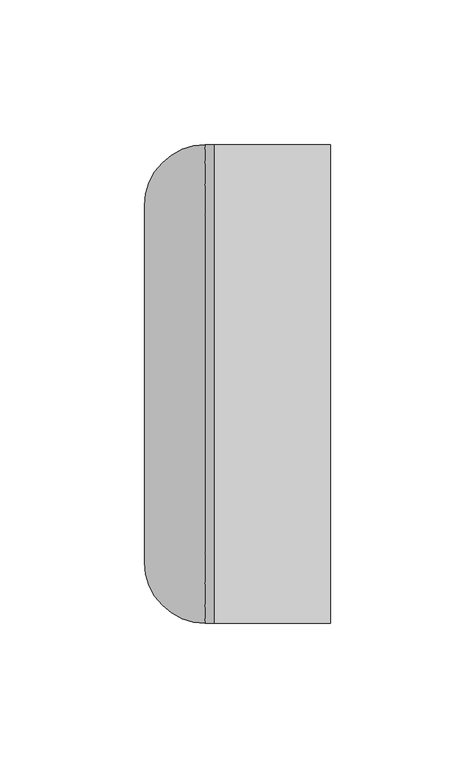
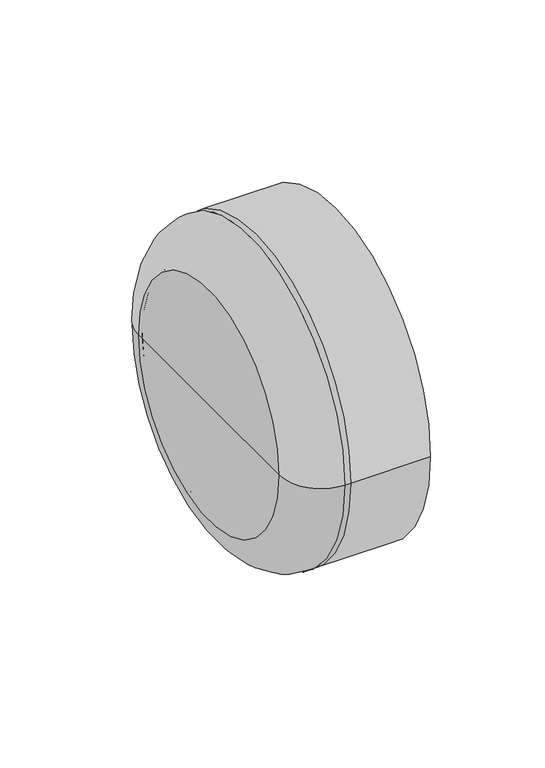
"""IFC4 building model written with IfcOpenShell, lengths in millimetres: pipe fitting geometry, 09_Заглушка : Белый цвет."""

from ifc_helpers import new_model, si_unit, point, frame, origin, place, context, project, spatial, polyline, circle_curve, ellipse_curve, trimmed, source, transform, mapped, element, save
from ifc_brep_helpers import plane_surface, cylinder_surface, revolved_surface, advanced_brep


def pipe_fitting_8b9b9ca8(model_context):
    return source(origin(), model_context, "Body", "AdvancedBrep", [
        advanced_brep(
        [(40.0, -82.6, 0.0), (40.0, 82.6, 0.0), (40.0, 62.5, 0.0), (40.0, -62.5, 0.0), (0.0, -82.6, 0.0), (0.0, 82.6, 0.0), (0.0, 62.5, 0.0), (0.0, -62.5, 0.0), (-24.2, -61.6721604, 0.0), (-24.2, 61.6721604, 0.0), (-3.2721604, 82.6, 0.0), (-3.2721604, -82.6, 0.0), (-24.2, 0.0, 0.0), (-22.2, -61.13, 0.0), (-22.2, 61.13, 0.0), (-22.2, 0.0, 0.0), (-20.83, -62.5, 0.0), (-20.83, 62.5, 0.0)],
        [
            (0, 1, circle_curve(frame((40.0, 0.0, 0.0), z_axis=(1.0, 0.0, 0.0), x_axis=(0.0, 1.0, 0.0)), 82.6)),
            (1, 0, circle_curve(frame((40.0, 0.0, 0.0), z_axis=(1.0, 0.0, 0.0), x_axis=(0.0, 1.0, 0.0)), 82.6)),
            (2, 3, circle_curve(frame((40.0, 0.0, 0.0), z_axis=(-1.0, 0.0, 0.0), x_axis=(0.0, 1.0, 0.0)), 62.5)),
            (3, 2, circle_curve(frame((40.0, 0.0, 0.0), z_axis=(-1.0, 0.0, 0.0), x_axis=(0.0, 1.0, 0.0)), 62.5)),
            (0, 4),
            (4, 5, circle_curve(frame((0.0, 0.0, 0.0), z_axis=(1.0, 0.0, 0.0), x_axis=(0.0, 1.0, 0.0)), 82.6)),
            (5, 1),
            (5, 4, circle_curve(frame((0.0, 0.0, 0.0), z_axis=(1.0, 0.0, 0.0), x_axis=(0.0, 1.0, 0.0)), 82.6)),
            (2, 6),
            (6, 7, circle_curve(frame((0.0, 0.0, 0.0), z_axis=(-1.0, 0.0, 0.0), x_axis=(0.0, 1.0, 0.0)), 62.5)),
            (7, 3),
            (7, 6, circle_curve(frame((0.0, 0.0, 0.0), z_axis=(-1.0, 0.0, 0.0), x_axis=(0.0, 1.0, 0.0)), 62.5)),
            (8, 9, circle_curve(frame((-24.2, 0.0, 0.0), z_axis=(1.0, 0.0, 0.0), x_axis=(0.0, 1.0, 0.0)), 61.6721604)),
            (9, 10, circle_curve(frame((-3.2721604, 61.6721604, 0.0), z_axis=(0.0, 0.0, -1.0), x_axis=(1.0, 0.0, 0.0)), 20.9278396)),
            (10, 11, circle_curve(frame((-3.2721604, 0.0, 0.0), z_axis=(-1.0, 0.0, 0.0), x_axis=(0.0, 1.0, 0.0)), 82.6)),
            (11, 8, circle_curve(frame((-3.2721604, -61.6721604, 0.0), z_axis=(0.0, 0.0, -1.0), x_axis=(1.0, 0.0, 0.0)), 20.9278396)),
            (9, 8, circle_curve(frame((-24.2, 0.0, 0.0), z_axis=(1.0, 0.0, 0.0), x_axis=(0.0, 1.0, 0.0)), 61.6721604)),
            (11, 10, circle_curve(frame((-3.2721604, 0.0, 0.0), z_axis=(-1.0, 0.0, 0.0), x_axis=(0.0, 1.0, 0.0)), 82.6)),
            (8, 12),
            (12, 9),
            (13, 14, circle_curve(frame((-22.2, 0.0, 0.0), z_axis=(1.0, 0.0, 0.0), x_axis=(0.0, 1.0, 0.0)), 61.13)),
            (14, 15),
            (15, 13),
            (14, 13, circle_curve(frame((-22.2, 0.0, 0.0), z_axis=(1.0, 0.0, 0.0), x_axis=(0.0, 1.0, 0.0)), 61.13)),
            (13, 16, circle_curve(frame((-20.83, -61.13, 0.0), z_axis=(0.0, 0.0, 1.0), x_axis=(1.0, 0.0, 0.0)), 1.37)),
            (16, 17, circle_curve(frame((-20.83, 0.0, 0.0), z_axis=(1.0, 0.0, 0.0), x_axis=(0.0, 1.0, 0.0)), 62.5)),
            (17, 14, circle_curve(frame((-20.83, 61.13, 0.0), z_axis=(0.0, 0.0, 1.0), x_axis=(1.0, 0.0, 0.0)), 1.37)),
            (17, 16, circle_curve(frame((-20.83, 0.0, 0.0), z_axis=(1.0, 0.0, 0.0), x_axis=(0.0, 1.0, 0.0)), 62.5)),
            (16, 7),
            (6, 17),
            (10, 5),
            (4, 11),
        ],
        [
            plane_surface(frame((40.0, 82.6, 0.0), z_axis=(1.0, 0.0, 0.0), x_axis=(0.0, 0.0, 1.0))),
            cylinder_surface(frame((0.0, 0.0, 0.0), z_axis=(1.0, 0.0, 0.0), x_axis=(0.0, 1.0, 0.0)), 82.6),
            revolved_surface(polyline([(40.0, 62.5, 0.0), (0.0, 62.5, 0.0)]), (0.0, 0.0, 0.0), (1.0, 0.0, 0.0)),
            revolved_surface(trimmed(ellipse_curve(frame((-3.2721604, 61.6721604, 0.0), z_axis=(0.0, 0.0, 1.0), x_axis=(1.0, 0.0, 0.0)), 20.9278396, 20.9278396), [point((-3.2721604, 82.6, 0.0))], [point((-24.2, 61.6721604, 0.0))], True, "CARTESIAN"), (-24.2, 0.0, 0.0), (-1.0, 0.0, 0.0)),
            plane_surface(frame((-24.2, 0.0, 0.0), z_axis=(-1.0, 0.0, 0.0), x_axis=(0.0, 1.0, 0.0))),
            plane_surface(frame((-22.2, 0.0, 0.0), z_axis=(1.0, 0.0, 0.0), x_axis=(0.0, 1.0, 0.0))),
            revolved_surface(trimmed(ellipse_curve(frame((-20.83, 61.13, 0.0), z_axis=(0.0, 0.0, -1.0), x_axis=(1.0, 0.0, 0.0)), 1.37, 1.37), [point((-22.2, 61.13, 0.0))], [point((-20.83, 62.5, 0.0))], True, "CARTESIAN"), (-24.2, 0.0, 0.0), (-1.0, 0.0, 0.0)),
            revolved_surface(polyline([(-20.83, 62.5, 0.0), (0.0, 62.5, 0.0)]), (-24.2, 0.0, 0.0), (-1.0, 0.0, 0.0)),
            cylinder_surface(frame((-24.2, 0.0, 0.0), z_axis=(-1.0, 0.0, 0.0), x_axis=(0.0, 1.0, 0.0)), 82.6),
        ],
        [
            (0, [[1, 2], [3, 4]]),
            (1, [[-1, 5, 6, 7]]),
            (1, [[-2, -7, 8, -5]]),
            (2, [[9, 10, 11, -3]]),
            (2, [[-9, -4, -11, 12]]),
            (3, [[13, 14, 15, 16]]),
            (3, [[-14, 17, -16, 18]]),
            (4, [[-13, 19, 20]]),
            (4, [[-17, -20, -19]]),
            (5, [[21, 22, 23]]),
            (5, [[-22, 24, -23]]),
            (6, [[-21, 25, 26, 27]]),
            (6, [[-24, -27, 28, -25]]),
            (7, [[-26, 29, -10, 30]]),
            (7, [[-28, -30, -12, -29]]),
            (8, [[-15, 31, -6, 32]]),
            (8, [[-18, -32, -8, -31]]),
        ],
    ),
    ])


if __name__ == "__main__":
    model = new_model("IFC4")
    model_context = context("Model", 3, world=origin())
    ifc_project = project(units=[si_unit("LENGTHUNIT", "METRE", prefix="MILLI")], contexts=[model_context])
    site = spatial("IfcSite", under=ifc_project)
    building = spatial("IfcBuilding", under=site)
    placement = place(None, origin())
    pipe_fitting_shape = pipe_fitting_8b9b9ca8(model_context)
    element("IfcPipeFitting", 1, ObjectType="09_Заглушка : Белый цвет", at=placement, inside=building, context=model_context, shape_type="MappedRepresentation", body=[
        mapped(pipe_fitting_shape, transform((0.0, 0.0, 0.0), x_axis=(1.0, 0.0, 0.0), y_axis=(0.0, 1.0, 0.0), z_axis=(0.0, 0.0, 1.0))),
    ])
    save(model, "model.ifc")
